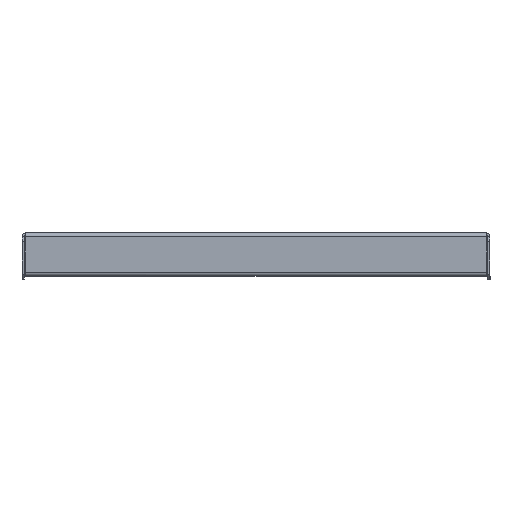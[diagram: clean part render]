
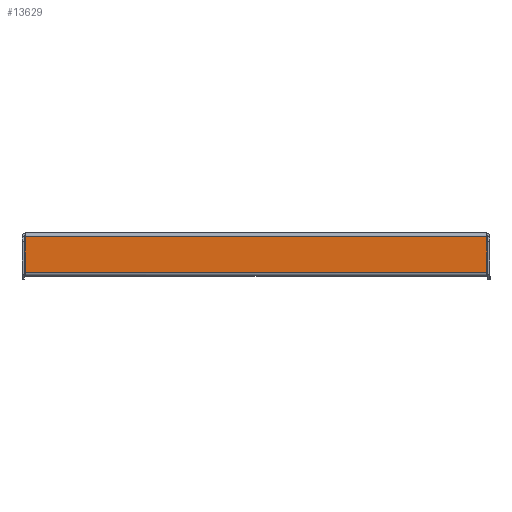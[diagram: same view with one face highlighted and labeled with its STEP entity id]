
A CAD part, left-side view. The second image highlights one B-rep face of the part: STEP entity #13629.
In plain terms, the highlighted planar face has unit normal (-1, 0, 0).
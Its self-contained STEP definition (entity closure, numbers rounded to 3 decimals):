
#677 = VECTOR ( 'NONE', #24525, 1000. ) ;
#932 = DIRECTION ( 'NONE',  ( 0., 0., -1. ) ) ;
#1269 = EDGE_CURVE ( 'NONE', #24470, #24141, #4849, .T. ) ;
#3544 = ORIENTED_EDGE ( 'NONE', *, *, #6957, .F. ) ;
#3826 = LINE ( 'NONE', #15736, #10913 ) ;
#4849 = LINE ( 'NONE', #20386, #19370 ) ;
#5168 = CARTESIAN_POINT ( 'NONE',  ( -362.2, 239.293, -38.5 ) ) ;
#5945 = CARTESIAN_POINT ( 'NONE',  ( -362.2, -240.5, -1.5 ) ) ;
#6752 = VERTEX_POINT ( 'NONE', #10677 ) ;
#6957 = EDGE_CURVE ( 'NONE', #24470, #20323, #21760, .T. ) ;
#7133 = AXIS2_PLACEMENT_3D ( 'NONE', #7292, #22962, #13227 ) ;
#7292 = CARTESIAN_POINT ( 'NONE',  ( -362.2, 0., 0. ) ) ;
#7596 = ORIENTED_EDGE ( 'NONE', *, *, #13386, .T. ) ;
#8365 = CARTESIAN_POINT ( 'NONE',  ( -362.2, 239.293, -1.5 ) ) ;
#9155 = VECTOR ( 'NONE', #21631, 1000. ) ;
#10677 = CARTESIAN_POINT ( 'NONE',  ( -362.2, -239.293, -38.5 ) ) ;
#10913 = VECTOR ( 'NONE', #11552, 1000. ) ;
#10999 = ORIENTED_EDGE ( 'NONE', *, *, #1269, .T. ) ;
#11552 = DIRECTION ( 'NONE',  ( 0., 0., -1. ) ) ;
#12722 = FACE_OUTER_BOUND ( 'NONE', #19487, .T. ) ;
#13227 = DIRECTION ( 'NONE',  ( 0., 0., -1. ) ) ;
#13386 = EDGE_CURVE ( 'NONE', #24141, #6752, #22504, .T. ) ;
#13629 = ADVANCED_FACE ( 'NONE', ( #12722 ), #20941, .F. ) ;
#13999 = CARTESIAN_POINT ( 'NONE',  ( -362.2, 239.293, -38.5 ) ) ;
#14065 = ORIENTED_EDGE ( 'NONE', *, *, #14279, .F. ) ;
#14279 = EDGE_CURVE ( 'NONE', #20323, #6752, #3826, .T. ) ;
#15241 = CARTESIAN_POINT ( 'NONE',  ( -362.2, -239.293, -1.5 ) ) ;
#15736 = CARTESIAN_POINT ( 'NONE',  ( -362.2, -239.293, 0. ) ) ;
#19370 = VECTOR ( 'NONE', #932, 1000. ) ;
#19487 = EDGE_LOOP ( 'NONE', ( #7596, #14065, #3544, #10999 ) ) ;
#20323 = VERTEX_POINT ( 'NONE', #15241 ) ;
#20386 = CARTESIAN_POINT ( 'NONE',  ( -362.2, 239.293, 0. ) ) ;
#20941 = PLANE ( 'NONE',  #7133 ) ;
#21631 = DIRECTION ( 'NONE',  ( 0., -1., 0. ) ) ;
#21760 = LINE ( 'NONE', #5945, #9155 ) ;
#22504 = LINE ( 'NONE', #5168, #677 ) ;
#22962 = DIRECTION ( 'NONE',  ( 1., 0., 0. ) ) ;
#24141 = VERTEX_POINT ( 'NONE', #13999 ) ;
#24470 = VERTEX_POINT ( 'NONE', #8365 ) ;
#24525 = DIRECTION ( 'NONE',  ( 0., -1., 0. ) ) ;
